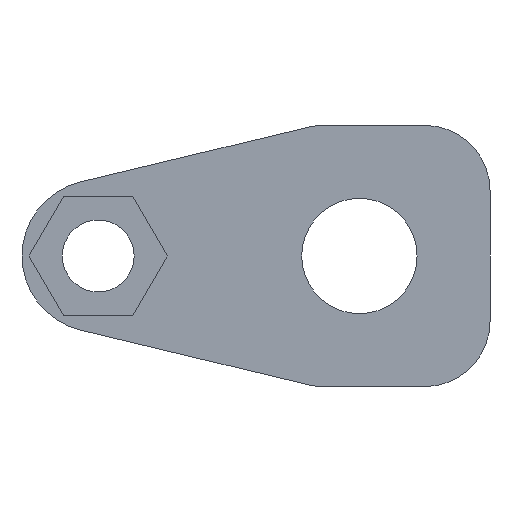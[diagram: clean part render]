
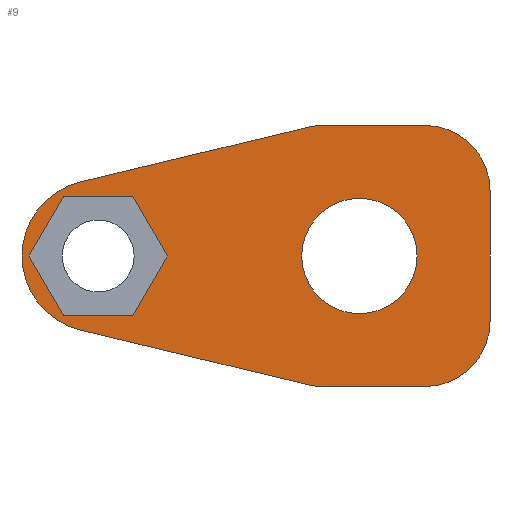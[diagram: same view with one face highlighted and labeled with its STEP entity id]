
A CAD part, front view. The second image highlights one B-rep face of the part: STEP entity #9.
In plain terms, the highlighted planar face has unit normal (0, -1, 0).
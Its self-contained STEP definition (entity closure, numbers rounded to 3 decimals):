
#9 = ADVANCED_FACE ( 'NONE', ( #245, #247, #252 ), #332, .F. ) ;
#62 = CIRCLE ( 'NONE', #746, 3. ) ;
#63 = CIRCLE ( 'NONE', #730, 3. ) ;
#64 = LINE ( 'NONE', #429, #67 ) ;
#66 = CIRCLE ( 'NONE', #737, 3.5 ) ;
#67 = VECTOR ( 'NONE', #508, 1000. ) ;
#72 = ORIENTED_EDGE ( 'NONE', *, *, #632, .F. ) ;
#75 = ORIENTED_EDGE ( 'NONE', *, *, #641, .T. ) ;
#78 = ORIENTED_EDGE ( 'NONE', *, *, #650, .F. ) ;
#81 = ORIENTED_EDGE ( 'NONE', *, *, #636, .F. ) ;
#86 = ORIENTED_EDGE ( 'NONE', *, *, #649, .T. ) ;
#87 = ORIENTED_EDGE ( 'NONE', *, *, #695, .T. ) ;
#90 = ORIENTED_EDGE ( 'NONE', *, *, #638, .T. ) ;
#93 = ORIENTED_EDGE ( 'NONE', *, *, #653, .T. ) ;
#94 = ORIENTED_EDGE ( 'NONE', *, *, #655, .T. ) ;
#95 = ORIENTED_EDGE ( 'NONE', *, *, #658, .T. ) ;
#96 = ORIENTED_EDGE ( 'NONE', *, *, #669, .T. ) ;
#97 = ORIENTED_EDGE ( 'NONE', *, *, #633, .T. ) ;
#102 = ORIENTED_EDGE ( 'NONE', *, *, #690, .T. ) ;
#104 = ORIENTED_EDGE ( 'NONE', *, *, #707, .T. ) ;
#106 = ORIENTED_EDGE ( 'NONE', *, *, #642, .T. ) ;
#107 = ORIENTED_EDGE ( 'NONE', *, *, #634, .T. ) ;
#111 = ORIENTED_EDGE ( 'NONE', *, *, #656, .F. ) ;
#128 = ORIENTED_EDGE ( 'NONE', *, *, #651, .T. ) ;
#214 = EDGE_LOOP ( 'NONE', ( #95, #75, #96, #87, #102, #104 ) ) ;
#219 = CIRCLE ( 'NONE', #749, 2.65 ) ;
#222 = EDGE_LOOP ( 'NONE', ( #78, #128, #81, #97, #111, #86, #93, #107, #94, #72 ) ) ;
#232 = EDGE_LOOP ( 'NONE', ( #106, #90 ) ) ;
#245 = FACE_BOUND ( 'NONE', #232, .T. ) ;
#247 = FACE_OUTER_BOUND ( 'NONE', #222, .T. ) ;
#250 = LINE ( 'NONE', #477, #251 ) ;
#251 = VECTOR ( 'NONE', #479, 1000. ) ;
#252 = FACE_BOUND ( 'NONE', #214, .T. ) ;
#261 = VERTEX_POINT ( 'NONE', #414 ) ;
#262 = VERTEX_POINT ( 'NONE', #368 ) ;
#269 = VERTEX_POINT ( 'NONE', #370 ) ;
#271 = VERTEX_POINT ( 'NONE', #381 ) ;
#273 = VERTEX_POINT ( 'NONE', #396 ) ;
#274 = VERTEX_POINT ( 'NONE', #371 ) ;
#277 = VERTEX_POINT ( 'NONE', #374 ) ;
#281 = VERTEX_POINT ( 'NONE', #397 ) ;
#282 = VERTEX_POINT ( 'NONE', #402 ) ;
#286 = VERTEX_POINT ( 'NONE', #378 ) ;
#287 = VERTEX_POINT ( 'NONE', #412 ) ;
#296 = VERTEX_POINT ( 'NONE', #390 ) ;
#301 = VERTEX_POINT ( 'NONE', #433 ) ;
#303 = VERTEX_POINT ( 'NONE', #425 ) ;
#307 = VERTEX_POINT ( 'NONE', #443 ) ;
#308 = VERTEX_POINT ( 'NONE', #445 ) ;
#309 = VERTEX_POINT ( 'NONE', #426 ) ;
#312 = VERTEX_POINT ( 'NONE', #460 ) ;
#332 = PLANE ( 'NONE',  #659 ) ;
#341 = CARTESIAN_POINT ( 'NONE',  ( 0., 0., 0. ) ) ;
#357 = DIRECTION ( 'NONE',  ( 0., 1., 0. ) ) ;
#359 = DIRECTION ( 'NONE',  ( 0., 0., 1. ) ) ;
#368 = CARTESIAN_POINT ( 'NONE',  ( -0.817, 0., -3.403 ) ) ;
#370 = CARTESIAN_POINT ( 'NONE',  ( 12., 0., 2.65 ) ) ;
#371 = CARTESIAN_POINT ( 'NONE',  ( 9.655, 0., -5.917 ) ) ;
#374 = CARTESIAN_POINT ( 'NONE',  ( 18., 0., 3. ) ) ;
#378 = CARTESIAN_POINT ( 'NONE',  ( 15., 0., -6. ) ) ;
#381 = CARTESIAN_POINT ( 'NONE',  ( 10.355, 0., 6. ) ) ;
#390 = CARTESIAN_POINT ( 'NONE',  ( 1.588, 0., -2.75 ) ) ;
#396 = CARTESIAN_POINT ( 'NONE',  ( -0.817, 0., 3.403 ) ) ;
#397 = CARTESIAN_POINT ( 'NONE',  ( -1.588, 0., 2.75 ) ) ;
#402 = CARTESIAN_POINT ( 'NONE',  ( 3.175, 0., 0. ) ) ;
#412 = CARTESIAN_POINT ( 'NONE',  ( -3.175, 0., 0. ) ) ;
#414 = CARTESIAN_POINT ( 'NONE',  ( 15., 0., 6. ) ) ;
#425 = CARTESIAN_POINT ( 'NONE',  ( 1.588, 0., 2.75 ) ) ;
#426 = CARTESIAN_POINT ( 'NONE',  ( -1.588, 0., -2.75 ) ) ;
#429 = CARTESIAN_POINT ( 'NONE',  ( 18., 0., -6. ) ) ;
#431 = DIRECTION ( 'NONE',  ( 0., -1., 0. ) ) ;
#432 = DIRECTION ( 'NONE',  ( 0., 0., 1. ) ) ;
#433 = CARTESIAN_POINT ( 'NONE',  ( 10.355, 0., -6. ) ) ;
#437 = CARTESIAN_POINT ( 'NONE',  ( 15., 0., -3. ) ) ;
#443 = CARTESIAN_POINT ( 'NONE',  ( 12., 0., -2.65 ) ) ;
#445 = CARTESIAN_POINT ( 'NONE',  ( 9.655, 0., 5.917 ) ) ;
#460 = CARTESIAN_POINT ( 'NONE',  ( 18., 0., -3. ) ) ;
#464 = CARTESIAN_POINT ( 'NONE',  ( 0., 0., 0. ) ) ;
#467 = DIRECTION ( 'NONE',  ( 0., 1., 0. ) ) ;
#468 = DIRECTION ( 'NONE',  ( 0., 0., 1. ) ) ;
#469 = DIRECTION ( 'NONE',  ( 0., 0., 1. ) ) ;
#470 = CARTESIAN_POINT ( 'NONE',  ( 10.355, 0., 3. ) ) ;
#471 = DIRECTION ( 'NONE',  ( 0., -1., 0. ) ) ;
#474 = CARTESIAN_POINT ( 'NONE',  ( 15., 0., 3. ) ) ;
#475 = CARTESIAN_POINT ( 'NONE',  ( 10., 0., -6. ) ) ;
#476 = DIRECTION ( 'NONE',  ( 0., 1., 0. ) ) ;
#477 = CARTESIAN_POINT ( 'NONE',  ( -1.588, 0., 2.75 ) ) ;
#478 = DIRECTION ( 'NONE',  ( -0.972, 0., 0.233 ) ) ;
#479 = DIRECTION ( 'NONE',  ( 1., 0., 0. ) ) ;
#480 = DIRECTION ( 'NONE',  ( 0., -1., 0. ) ) ;
#481 = CARTESIAN_POINT ( 'NONE',  ( 10.355, 0., -3. ) ) ;
#482 = DIRECTION ( 'NONE',  ( 0., 0., 1. ) ) ;
#484 = DIRECTION ( 'NONE',  ( -1., 0., 0. ) ) ;
#491 = DIRECTION ( 'NONE',  ( 0., 0., 1. ) ) ;
#492 = DIRECTION ( 'NONE',  ( 0., 1., 0. ) ) ;
#496 = DIRECTION ( 'NONE',  ( 0., -1., 0. ) ) ;
#497 = DIRECTION ( 'NONE',  ( 0., 0., 1. ) ) ;
#501 = CARTESIAN_POINT ( 'NONE',  ( 12., 0., 0. ) ) ;
#505 = CARTESIAN_POINT ( 'NONE',  ( 10., 0., 6. ) ) ;
#506 = CARTESIAN_POINT ( 'NONE',  ( 18., 0., 6. ) ) ;
#508 = DIRECTION ( 'NONE',  ( -1., 0., 0. ) ) ;
#512 = CARTESIAN_POINT ( 'NONE',  ( 12., 0., 0. ) ) ;
#517 = DIRECTION ( 'NONE',  ( 0., 0., 1. ) ) ;
#519 = DIRECTION ( 'NONE',  ( 0.5, 0., -0.866 ) ) ;
#531 = CARTESIAN_POINT ( 'NONE',  ( 18., 0., 6. ) ) ;
#535 = CARTESIAN_POINT ( 'NONE',  ( -3.175, 0., 0. ) ) ;
#536 = CARTESIAN_POINT ( 'NONE',  ( 1.588, 0., -2.75 ) ) ;
#537 = DIRECTION ( 'NONE',  ( -1., 0., 0. ) ) ;
#541 = DIRECTION ( 'NONE',  ( -0.972, 0., -0.233 ) ) ;
#542 = DIRECTION ( 'NONE',  ( 0., 0., -1. ) ) ;
#555 = CARTESIAN_POINT ( 'NONE',  ( 1.588, 0., 2.75 ) ) ;
#559 = DIRECTION ( 'NONE',  ( 0.5, 0., 0.866 ) ) ;
#570 = CARTESIAN_POINT ( 'NONE',  ( -1.588, 0., -2.75 ) ) ;
#576 = DIRECTION ( 'NONE',  ( -0.5, 0., 0.866 ) ) ;
#578 = DIRECTION ( 'NONE',  ( -0.5, 0., -0.866 ) ) ;
#604 = CARTESIAN_POINT ( 'NONE',  ( 3.175, 0., 0. ) ) ;
#632 = EDGE_CURVE ( 'NONE', #262, #273, #66, .T. ) ;
#633 = EDGE_CURVE ( 'NONE', #286, #312, #62, .T. ) ;
#634 = EDGE_CURVE ( 'NONE', #271, #308, #63, .T. ) ;
#636 = EDGE_CURVE ( 'NONE', #286, #301, #64, .T. ) ;
#638 = EDGE_CURVE ( 'NONE', #269, #307, #219, .T. ) ;
#641 = EDGE_CURVE ( 'NONE', #281, #303, #250, .T. ) ;
#642 = EDGE_CURVE ( 'NONE', #307, #269, #786, .T. ) ;
#649 = EDGE_CURVE ( 'NONE', #277, #261, #784, .T. ) ;
#650 = EDGE_CURVE ( 'NONE', #274, #262, #759, .T. ) ;
#651 = EDGE_CURVE ( 'NONE', #274, #301, #761, .T. ) ;
#653 = EDGE_CURVE ( 'NONE', #261, #271, #772, .T. ) ;
#655 = EDGE_CURVE ( 'NONE', #308, #273, #762, .T. ) ;
#656 = EDGE_CURVE ( 'NONE', #277, #312, #756, .T. ) ;
#658 = EDGE_CURVE ( 'NONE', #287, #281, #778, .T. ) ;
#659 = AXIS2_PLACEMENT_3D ( 'NONE', #341, #357, #359 ) ;
#669 = EDGE_CURVE ( 'NONE', #303, #282, #771, .T. ) ;
#690 = EDGE_CURVE ( 'NONE', #296, #309, #806, .T. ) ;
#695 = EDGE_CURVE ( 'NONE', #282, #296, #829, .T. ) ;
#707 = EDGE_CURVE ( 'NONE', #309, #287, #797, .T. ) ;
#728 = AXIS2_PLACEMENT_3D ( 'NONE', #474, #480, #491 ) ;
#730 = AXIS2_PLACEMENT_3D ( 'NONE', #470, #471, #432 ) ;
#735 = AXIS2_PLACEMENT_3D ( 'NONE', #512, #476, #517 ) ;
#737 = AXIS2_PLACEMENT_3D ( 'NONE', #464, #467, #469 ) ;
#746 = AXIS2_PLACEMENT_3D ( 'NONE', #437, #431, #468 ) ;
#748 = AXIS2_PLACEMENT_3D ( 'NONE', #481, #496, #497 ) ;
#749 = AXIS2_PLACEMENT_3D ( 'NONE', #501, #492, #482 ) ;
#751 = VECTOR ( 'NONE', #559, 1000. ) ;
#755 = VECTOR ( 'NONE', #541, 1000. ) ;
#756 = LINE ( 'NONE', #531, #765 ) ;
#759 = LINE ( 'NONE', #475, #760 ) ;
#760 = VECTOR ( 'NONE', #478, 1000. ) ;
#761 = CIRCLE ( 'NONE', #748, 3. ) ;
#762 = LINE ( 'NONE', #505, #755 ) ;
#764 = VECTOR ( 'NONE', #484, 1000. ) ;
#765 = VECTOR ( 'NONE', #542, 1000. ) ;
#771 = LINE ( 'NONE', #555, #774 ) ;
#772 = LINE ( 'NONE', #506, #764 ) ;
#774 = VECTOR ( 'NONE', #519, 1000. ) ;
#778 = LINE ( 'NONE', #535, #751 ) ;
#784 = CIRCLE ( 'NONE', #728, 3. ) ;
#786 = CIRCLE ( 'NONE', #735, 2.65 ) ;
#797 = LINE ( 'NONE', #570, #834 ) ;
#806 = LINE ( 'NONE', #536, #818 ) ;
#818 = VECTOR ( 'NONE', #537, 1000. ) ;
#829 = LINE ( 'NONE', #604, #837 ) ;
#834 = VECTOR ( 'NONE', #576, 1000. ) ;
#837 = VECTOR ( 'NONE', #578, 1000. ) ;
